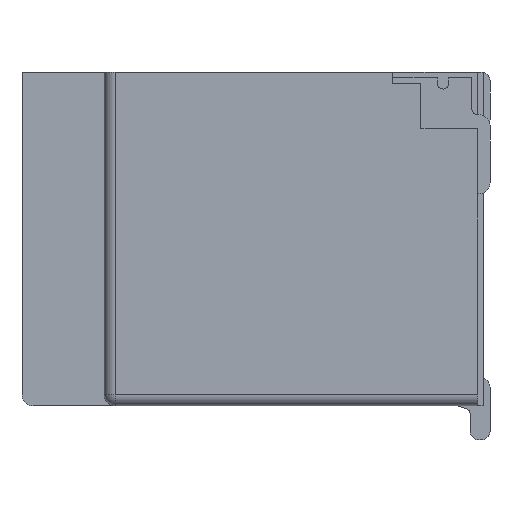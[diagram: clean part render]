
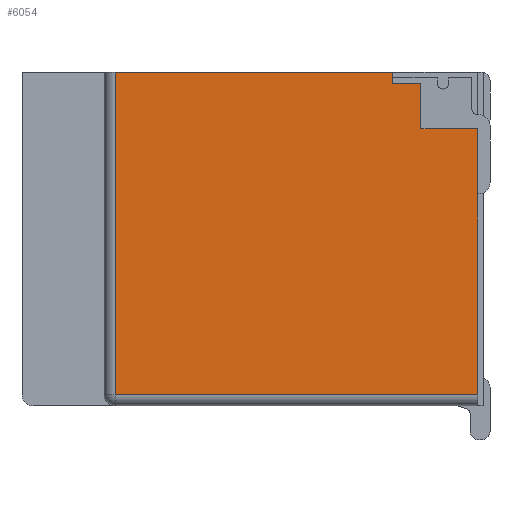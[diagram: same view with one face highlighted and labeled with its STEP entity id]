
A CAD part, left-side view. The second image highlights one B-rep face of the part: STEP entity #6054.
In plain terms, the highlighted planar face has unit normal (-1, 0, 0).
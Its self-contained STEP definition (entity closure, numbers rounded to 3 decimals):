
#1211=CARTESIAN_POINT('Vertex',(-3.5,1.6,5.9)) ;
#1214=CARTESIAN_POINT('Line Origine',(-3.5,1.6,5.8)) ;
#1218=CARTESIAN_POINT('Vertex',(-3.5,1.6,5.7)) ;
#1284=CARTESIAN_POINT('Vertex',(-3.5,1.1,4.9)) ;
#1287=CARTESIAN_POINT('Line Origine',(-3.5,0.6,4.9)) ;
#1291=CARTESIAN_POINT('Vertex',(-3.5,0.1,4.9)) ;
#1306=CARTESIAN_POINT('Line Origine',(-3.5,1.35,5.7)) ;
#1310=CARTESIAN_POINT('Vertex',(-3.5,1.1,5.7)) ;
#1325=CARTESIAN_POINT('Line Origine',(-3.5,1.1,5.3)) ;
#5875=CARTESIAN_POINT('Line Origine',(-3.5,4.05,5.9)) ;
#5879=CARTESIAN_POINT('Vertex',(-3.5,6.5,5.9)) ;
#5981=CARTESIAN_POINT('Vertex',(-3.5,0.1,0.2)) ;
#5989=CARTESIAN_POINT('Line Origine',(-3.5,0.1,2.55)) ;
#6027=CARTESIAN_POINT('Axis2P3D Location',(-3.5,0.,0.)) ;
#6032=CARTESIAN_POINT('Line Origine',(-3.5,3.3,0.2)) ;
#6036=CARTESIAN_POINT('Vertex',(-3.5,6.5,0.2)) ;
#6039=CARTESIAN_POINT('Line Origine',(-3.5,6.5,3.05)) ;
#1215=DIRECTION('Vector Direction',(0.,0.,1.)) ;
#1288=DIRECTION('Vector Direction',(0.,1.,0.)) ;
#1307=DIRECTION('Vector Direction',(0.,1.,0.)) ;
#1326=DIRECTION('Vector Direction',(0.,0.,1.)) ;
#5876=DIRECTION('Vector Direction',(0.,-1.,0.)) ;
#5990=DIRECTION('Vector Direction',(0.,0.,-1.)) ;
#6028=DIRECTION('Axis2P3D Direction',(1.,0.,0.)) ;
#6029=DIRECTION('Axis2P3D XDirection',(0.,1.,0.)) ;
#6033=DIRECTION('Vector Direction',(0.,1.,0.)) ;
#6040=DIRECTION('Vector Direction',(0.,0.,1.)) ;
#6030=AXIS2_PLACEMENT_3D('Plane Axis2P3D',#6027,#6028,#6029) ;
#6045=ORIENTED_EDGE('',*,*,#6038,.F.) ;
#6046=ORIENTED_EDGE('',*,*,#5993,.F.) ;
#6047=ORIENTED_EDGE('',*,*,#1293,.T.) ;
#6048=ORIENTED_EDGE('',*,*,#1329,.T.) ;
#6049=ORIENTED_EDGE('',*,*,#1312,.T.) ;
#6050=ORIENTED_EDGE('',*,*,#1220,.T.) ;
#6051=ORIENTED_EDGE('',*,*,#5881,.F.) ;
#6052=ORIENTED_EDGE('',*,*,#6043,.T.) ;
#1216=VECTOR('Line Direction',#1215,1.) ;
#1289=VECTOR('Line Direction',#1288,1.) ;
#1308=VECTOR('Line Direction',#1307,1.) ;
#1327=VECTOR('Line Direction',#1326,1.) ;
#5877=VECTOR('Line Direction',#5876,1.) ;
#5991=VECTOR('Line Direction',#5990,1.) ;
#6034=VECTOR('Line Direction',#6033,1.) ;
#6041=VECTOR('Line Direction',#6040,1.) ;
#6054=ADVANCED_FACE('\X2\96F64EF651E04F554F53\X0\',(#6053),#6031,.F.) ;
#1220=EDGE_CURVE('',#1219,#1212,#1217,.T.) ;
#1293=EDGE_CURVE('',#1292,#1285,#1290,.T.) ;
#1312=EDGE_CURVE('',#1311,#1219,#1309,.T.) ;
#1329=EDGE_CURVE('',#1285,#1311,#1328,.T.) ;
#5881=EDGE_CURVE('',#5880,#1212,#5878,.T.) ;
#5993=EDGE_CURVE('',#1292,#5982,#5992,.T.) ;
#6038=EDGE_CURVE('',#5982,#6037,#6035,.T.) ;
#6043=EDGE_CURVE('',#5880,#6037,#6042,.F.) ;
#6044=EDGE_LOOP('',(#6045,#6046,#6047,#6048,#6049,#6050,#6051,#6052)) ;
#6053=FACE_OUTER_BOUND('',#6044,.T.) ;
#1217=LINE('Line',#1214,#1216) ;
#1290=LINE('Line',#1287,#1289) ;
#1309=LINE('Line',#1306,#1308) ;
#1328=LINE('Line',#1325,#1327) ;
#5878=LINE('Line',#5875,#5877) ;
#5992=LINE('Line',#5989,#5991) ;
#6035=LINE('Line',#6032,#6034) ;
#6042=LINE('Line',#6039,#6041) ;
#6031=PLANE('Plane',#6030) ;
#1212=VERTEX_POINT('',#1211) ;
#1219=VERTEX_POINT('',#1218) ;
#1285=VERTEX_POINT('',#1284) ;
#1292=VERTEX_POINT('',#1291) ;
#1311=VERTEX_POINT('',#1310) ;
#5880=VERTEX_POINT('',#5879) ;
#5982=VERTEX_POINT('',#5981) ;
#6037=VERTEX_POINT('',#6036) ;
